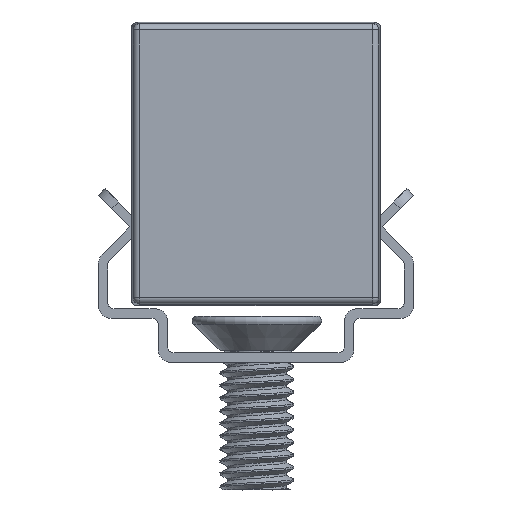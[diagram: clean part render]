
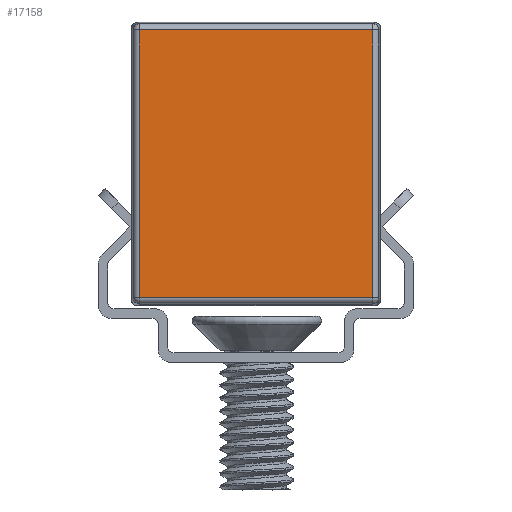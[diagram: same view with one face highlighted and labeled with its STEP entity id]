
A CAD part, front view. The second image highlights one B-rep face of the part: STEP entity #17158.
In plain terms, the highlighted planar face has unit normal (0, -1, 0).
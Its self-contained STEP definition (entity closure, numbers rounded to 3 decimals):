
#522=PLANE('',#18456);
#1088=LINE('',#25439,#2746);
#1094=LINE('',#25468,#2752);
#1096=LINE('',#25471,#2754);
#1098=LINE('',#25474,#2756);
#2746=VECTOR('',#20226,10.);
#2752=VECTOR('',#20258,10.);
#2754=VECTOR('',#20262,10.);
#2756=VECTOR('',#20266,10.);
#4831=FACE_OUTER_BOUND('',#5921,.T.);
#5921=EDGE_LOOP('',(#12027,#12028,#12029,#12030));
#7710=VERTEX_POINT('',#25413);
#7715=VERTEX_POINT('',#25426);
#7720=VERTEX_POINT('',#25442);
#7725=VERTEX_POINT('',#25455);
#9380=EDGE_CURVE('',#7710,#7715,#1088,.T.);
#9394=EDGE_CURVE('',#7715,#7725,#1094,.T.);
#9396=EDGE_CURVE('',#7725,#7720,#1096,.T.);
#9398=EDGE_CURVE('',#7720,#7710,#1098,.T.);
#12027=ORIENTED_EDGE('',*,*,#9380,.F.);
#12028=ORIENTED_EDGE('',*,*,#9398,.F.);
#12029=ORIENTED_EDGE('',*,*,#9396,.F.);
#12030=ORIENTED_EDGE('',*,*,#9394,.F.);
#17158=ADVANCED_FACE('',(#4831),#522,.T.);
#18456=AXIS2_PLACEMENT_3D('',#25530,#20313,#20314);
#20226=DIRECTION('',(0.,0.,1.));
#20258=DIRECTION('',(1.,0.,0.));
#20262=DIRECTION('',(0.,0.,-1.));
#20266=DIRECTION('',(-1.,0.,0.));
#20313=DIRECTION('center_axis',(0.,-1.,0.));
#20314=DIRECTION('ref_axis',(1.,0.,0.));
#25413=CARTESIAN_POINT('',(-3.697,-1.8,0.253));
#25426=CARTESIAN_POINT('',(-3.697,-1.8,8.747));
#25439=CARTESIAN_POINT('',(-3.697,-1.8,2.25));
#25442=CARTESIAN_POINT('',(3.697,-1.8,0.253));
#25455=CARTESIAN_POINT('',(3.697,-1.8,8.747));
#25468=CARTESIAN_POINT('',(-1.975,-1.8,8.747));
#25471=CARTESIAN_POINT('',(3.697,-1.8,6.75));
#25474=CARTESIAN_POINT('',(1.975,-1.8,0.253));
#25530=CARTESIAN_POINT('Origin',(0.,-1.8,4.5));
